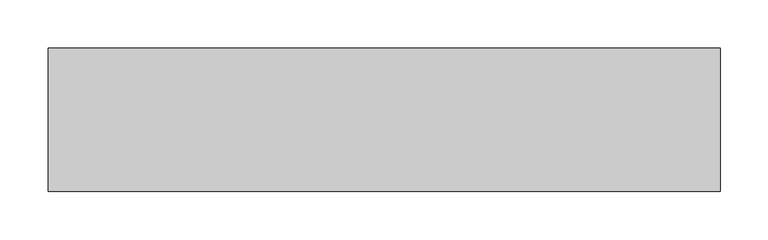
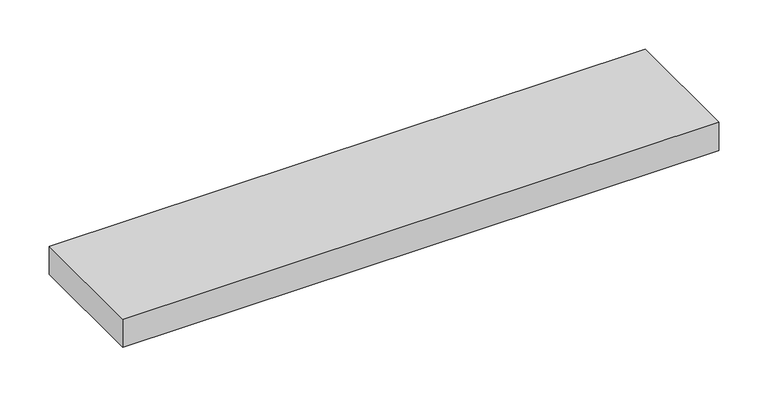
"""IFC4 building model written with IfcOpenShell, lengths in millimetres: furniture geometry, Pixel_Multiple : Pixel_Multiple."""

from ifc_helpers import new_model, si_unit, origin, origin_with_axes, place, context, project, spatial, polyline, outline, extrude, source, transform, mapped, element, save


def furniture_66459304(model_context):
    return source(origin(), model_context, "Body", "SweptSolid", [
        extrude(outline(polyline([(700.0, 0.0), (0.0, 0.0), (0.0, 150.0), (700.0, 150.0), (700.0, 0.0)])), origin_with_axes(), (0.0, 0.0, 1.0), 35.0),
    ])


if __name__ == "__main__":
    model = new_model("IFC4")
    model_context = context("Model", 3, world=origin())
    ifc_project = project(units=[si_unit("LENGTHUNIT", "METRE", prefix="MILLI")], contexts=[model_context])
    site = spatial("IfcSite", under=ifc_project)
    building = spatial("IfcBuilding", under=site)
    placement = place(None, origin())
    furniture_shape = furniture_66459304(model_context)
    element("IfcFurniture", 1, ObjectType="Pixel_Multiple : Pixel_Multiple", at=placement, inside=building, context=model_context, shape_type="MappedRepresentation", body=[
        mapped(furniture_shape, transform((0.0, 0.0, 0.0), x_axis=(1.0, 0.0, 0.0), y_axis=(0.0, 1.0, 0.0), z_axis=(0.0, 0.0, 1.0))),
    ])
    save(model, "model.ifc")
